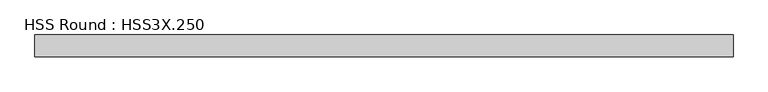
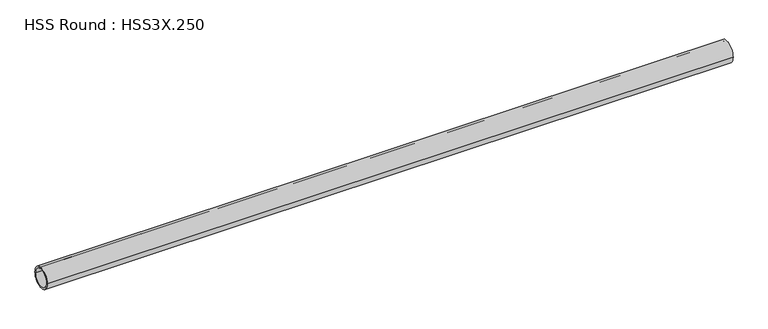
"""IFC4 building model written with IfcOpenShell, lengths in millimetres: member geometry, HSS Round : HSS3X.250."""

from ifc_helpers import new_model, si_unit, point, frame, origin, origin_2d, place, context, project, spatial, circle_curve, trimmed, segment, composite_curve, outline, extrude, source, transform, mapped, element, save


def hss_round_hss3x_250_beeb6db1(model_context):
    return source(origin(), model_context, "Body", "SweptSolid", [
        extrude(outline(composite_curve([segment(trimmed(circle_curve(origin_2d(), 38.1), [point((-38.1, 0.0))], [point((38.1, 0.0))], False, "CARTESIAN"), True, "CONTINUOUS"), segment(trimmed(circle_curve(origin_2d(), 38.1), [point((38.1, 0.0))], [point((-38.1, 0.0))], False, "CARTESIAN"), True, "CONTINUOUS")], self_intersect=False), holes=[composite_curve([segment(trimmed(circle_curve(origin_2d(), 31.75), [point((31.75, 0.0))], [point((-31.75, 0.0))], True, "CARTESIAN"), True, "CONTINUOUS"), segment(trimmed(circle_curve(origin_2d(), 31.75), [point((-31.75, 0.0))], [point((31.75, 0.0))], True, "CARTESIAN"), True, "CONTINUOUS")], self_intersect=False)]), frame((-1193.5233718, 0.0, 0.0), z_axis=(1.0, 0.0, 0.0), x_axis=(0.0, 1.0, 0.0)), (0.0, 0.0, 1.0), 2452.3998911),
    ])


if __name__ == "__main__":
    model = new_model("IFC4")
    model_context = context("Model", 3, world=origin())
    ifc_project = project(units=[si_unit("LENGTHUNIT", "METRE", prefix="MILLI")], contexts=[model_context])
    site = spatial("IfcSite", under=ifc_project)
    building = spatial("IfcBuilding", under=site)
    placement = place(None, origin())
    hss_round_hss3x_250_shape = hss_round_hss3x_250_beeb6db1(model_context)
    element("IfcMember", 1, ObjectType="HSS Round : HSS3X.250", at=placement, inside=building, context=model_context, shape_type="MappedRepresentation", body=[
        mapped(hss_round_hss3x_250_shape, transform((0.0, 0.0, 0.0), x_axis=(1.0, 0.0, 0.0), y_axis=(0.0, 1.0, 0.0), z_axis=(0.0, 0.0, 1.0))),
    ])
    save(model, "model.ifc")
